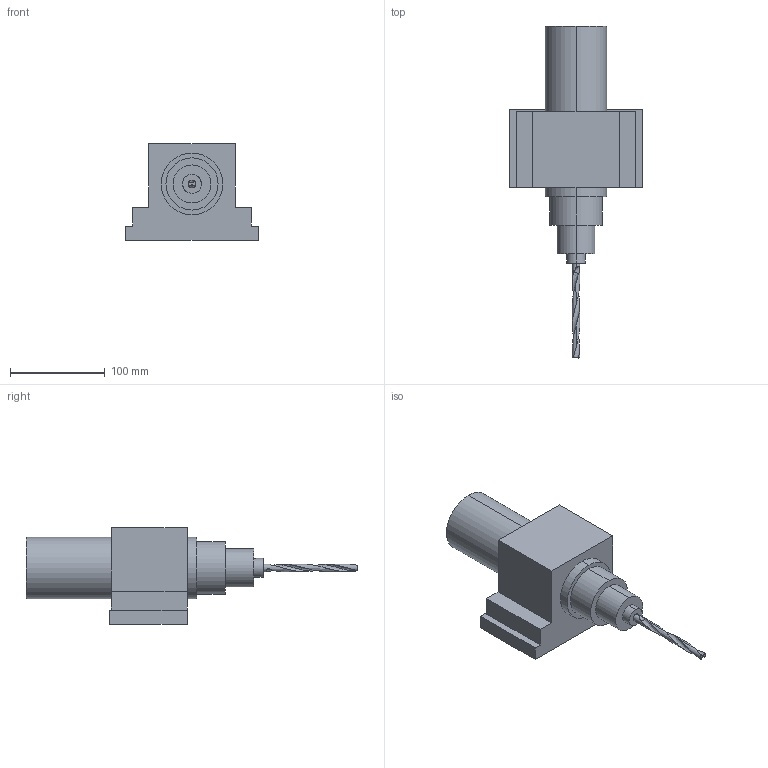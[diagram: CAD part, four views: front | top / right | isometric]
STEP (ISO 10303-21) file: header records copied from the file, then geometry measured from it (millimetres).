
FILE_DESCRIPTION (( 'STEP AP214' ), '1' );
FILE_NAME ('tool du an.STEP', '2026-11-04T07:55:35', ( '' ), ( '' ), 'SwSTEP 2.0', 'SolidWorks 2020', '' );
FILE_SCHEMA (( 'AUTOMOTIVE_DESIGN' ));
Length unit declared in the file: millimetre
Products named in the file (1): tool du an
Bounding box: 140 x 350 x 102 mm (x, y, z)
Volume: 1306635.3 mm3; surface area: 93390.2 mm2
Topology: 1 solids, 1 shells, 46 faces, 116 edges, 78 vertices
Faces by surface type: plane 20, cylinder 16, bspline 10
Entity records: 4496 total; most frequent: CARTESIAN_POINT 3437, ORIENTED_EDGE 232, DIRECTION 178, EDGE_CURVE 116, VERTEX_POINT 78, AXIS2_PLACEMENT_3D 63, VECTOR 52, EDGE_LOOP 52
